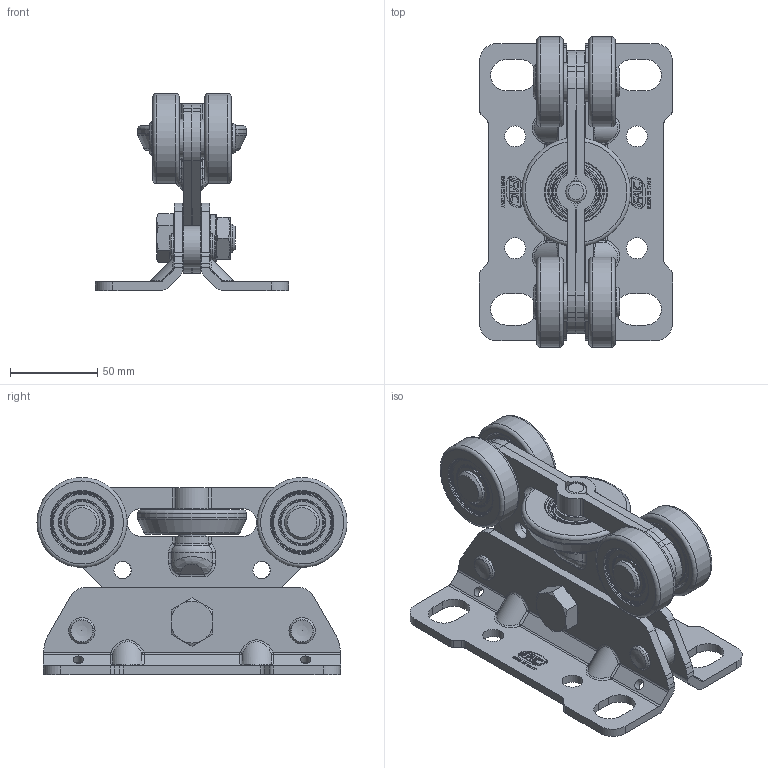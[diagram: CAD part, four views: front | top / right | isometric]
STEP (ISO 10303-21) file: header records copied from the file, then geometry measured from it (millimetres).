
FILE_DESCRIPTION(/* description */ ('Unknown'),/* implementation_level */ '2;1');
FILE_NAME(/* name */ 'FAC_X01 VD1100.053',/* time_stamp */ '2021-11-19T15:03:30+01:00',/* author */ ('Unknown'),/* organization */ ('Unknown'),/* preprocessor_version */ 'ST-DEVELOPER v16.7',/* originating_system */ 'DEX',/* authorisation */ $);
FILE_SCHEMA (('AUTOMOTIVE_DESIGN {1 0 10303 214 3 1 1}'));
Length unit declared in the file: millimetre
Products named in the file (27): X01 VD1100.053_02; 900 X01 910S_02; 410 N0092_03; 400 Q3125_02; 400 Q3127_02_oa_0; 400 Q3127_02_oa_1; 410 N019_03; 410 D095_01; 530 S095_00; 520 S068_01; 6203 2RS; AnelliIntEst 6203 2RS; Guarnizione 6203 2RS; Sfera D=6.74; Rosetta UNI 6592 M12; Anello Seeger A 17; 210 G635_06; 210 G6355_01; Dado M16 B; 210 B1675_01; 530 S096_00; 520 S069_03; 6201 2RS; AnelliIntEst 6201 2RS; Guarnizione 6201 2RS; Sfera D=6; Rosetta UNI 1751 Grower M16_oa_2
Assembly tree (52 placements, depth 5):
  X01 VD1100.053_02
    900 X01 910S_02
      410 N0092_03
        400 Q3125_02  x2
        400 Q3127_02_oa_0
        400 Q3127_02_oa_1
      410 N019_03  x2
      410 D095_01  x4
      530 S095_00  x4
        520 S068_01
        6203 2RS
          AnelliIntEst 6203 2RS
          Guarnizione 6203 2RS  x2
          Sfera D=6.74  x8
      Rosetta UNI 6592 M12
      Anello Seeger A 17  x2
      210 G635_06  x2
      210 G6355_01
      Dado M16 B
      210 B1675_01
      530 S096_00
        520 S069_03
        6201 2RS
          AnelliIntEst 6201 2RS
          Guarnizione 6201 2RS  x2
          Sfera D=6  x8
      Rosetta UNI 1751 Grower M16_oa_2
Bounding box: 110.5 x 177.5 x 112.75 mm (x, y, z)
Volume: 391011.2 mm3; surface area: 205161.4 mm2
Topology: 84 solids, 84 shells, 1247 faces, 2915 edges, 1833 vertices
Faces by surface type: plane 527, cylinder 354, cone 99, bspline 92, torus 91, sphere 84
Full cylindrical faces by diameter (mm): 1.5 x4, 6 x4, 10 x4, 12 x7, 13 x1, 13.835 x1, 14 x8, 15 x4, 15.9 x2, 16 x6, 16.1 x2, 17 x12, 18 x8, 18.541 x2, 20 x2, 22 x4, 23.9 x17, 24 x3, 24.522 x8, 26 x3, 28 x4, 32 x2, 33.1 x8, 35 x1, 35.4 x16, 35.5 x4, 40 x8, 51.5 x4, 62.3 x1
Entity records: 18728 total; most frequent: CARTESIAN_POINT 4557, DIRECTION 2785, ORIENTED_EDGE 2440, EDGE_CURVE 1220, AXIS2_PLACEMENT_3D 1077, VERTEX_POINT 857, FACE_BOUND 849, EDGE_LOOP 847
